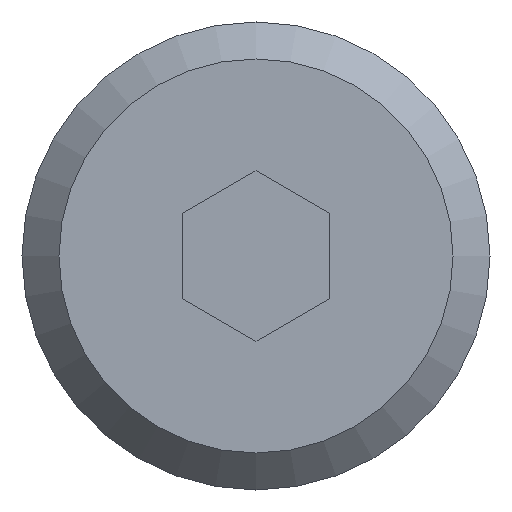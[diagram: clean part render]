
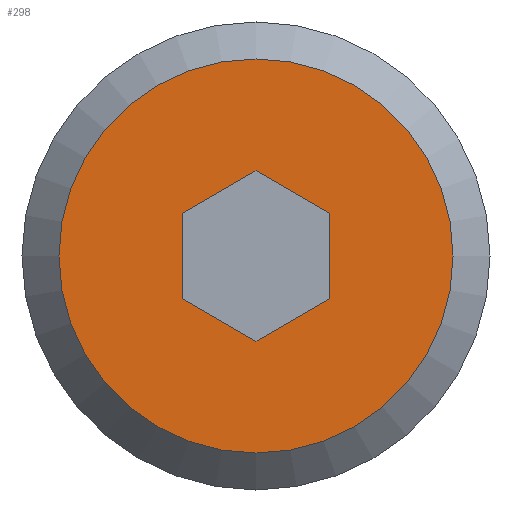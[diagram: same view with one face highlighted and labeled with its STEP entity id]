
A CAD part, left-side view. The second image highlights one B-rep face of the part: STEP entity #298.
In plain terms, the highlighted planar face has unit normal (-1, 0, 0).
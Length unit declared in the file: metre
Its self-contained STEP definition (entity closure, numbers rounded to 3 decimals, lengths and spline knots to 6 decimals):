
#15=CIRCLE('',#329,0.004);
#88=ORIENTED_EDGE('',*,*,#123,.F.);
#89=ORIENTED_EDGE('',*,*,#134,.F.);
#90=ORIENTED_EDGE('',*,*,#132,.F.);
#91=ORIENTED_EDGE('',*,*,#130,.F.);
#92=ORIENTED_EDGE('',*,*,#128,.F.);
#93=ORIENTED_EDGE('',*,*,#126,.F.);
#94=ORIENTED_EDGE('',*,*,#151,.T.);
#123=EDGE_CURVE('',#163,#164,#192,.T.);
#126=EDGE_CURVE('',#164,#165,#195,.T.);
#128=EDGE_CURVE('',#165,#166,#197,.T.);
#130=EDGE_CURVE('',#166,#167,#199,.T.);
#132=EDGE_CURVE('',#167,#168,#201,.T.);
#134=EDGE_CURVE('',#168,#163,#203,.T.);
#151=EDGE_CURVE('',#182,#182,#15,.T.);
#163=VERTEX_POINT('',#427);
#164=VERTEX_POINT('',#428);
#165=VERTEX_POINT('',#433);
#166=VERTEX_POINT('',#437);
#167=VERTEX_POINT('',#441);
#168=VERTEX_POINT('',#445);
#182=VERTEX_POINT('',#5761);
#192=LINE('',#426,#214);
#195=LINE('',#432,#217);
#197=LINE('',#436,#219);
#199=LINE('',#440,#221);
#201=LINE('',#444,#223);
#203=LINE('',#448,#225);
#214=VECTOR('',#353,1.);
#217=VECTOR('',#358,1.);
#219=VECTOR('',#362,1.);
#221=VECTOR('',#366,1.);
#223=VECTOR('',#370,1.);
#225=VECTOR('',#374,1.);
#241=EDGE_LOOP('',(#88,#89,#90,#91,#92,#93));
#242=EDGE_LOOP('',(#94));
#264=FACE_BOUND('',#241,.T.);
#265=FACE_BOUND('',#242,.T.);
#284=PLANE('',#328);
#298=ADVANCED_FACE('',(#264,#265),#284,.F.);
#328=AXIS2_PLACEMENT_3D('',#5759,#385,#386);
#329=AXIS2_PLACEMENT_3D('',#5760,#387,#388);
#353=DIRECTION('',(0.,0.,1.));
#358=DIRECTION('',(0.,0.866,0.5));
#362=DIRECTION('',(0.,0.866,-0.5));
#366=DIRECTION('',(0.,0.,-1.));
#370=DIRECTION('',(0.,-0.866,-0.5));
#374=DIRECTION('',(0.,-0.866,0.5));
#385=DIRECTION('',(1.,0.,0.));
#386=DIRECTION('',(0.,0.,1.));
#387=DIRECTION('',(-1.,0.,0.));
#388=DIRECTION('',(0.,0.,1.));
#426=CARTESIAN_POINT('',(-0.060427,0.016334,-0.053567));
#427=CARTESIAN_POINT('',(-0.060427,0.016334,-0.053567));
#428=CARTESIAN_POINT('',(-0.060427,0.016334,-0.051835));
#432=CARTESIAN_POINT('',(-0.060427,0.016334,-0.051835));
#433=CARTESIAN_POINT('',(-0.060427,0.017834,-0.050969));
#436=CARTESIAN_POINT('',(-0.060427,0.017834,-0.050969));
#437=CARTESIAN_POINT('',(-0.060427,0.019334,-0.051835));
#440=CARTESIAN_POINT('',(-0.060427,0.019334,-0.051835));
#441=CARTESIAN_POINT('',(-0.060427,0.019334,-0.053567));
#444=CARTESIAN_POINT('',(-0.060427,0.019334,-0.053567));
#445=CARTESIAN_POINT('',(-0.060427,0.017834,-0.054433));
#448=CARTESIAN_POINT('',(-0.060427,0.017834,-0.054433));
#5759=CARTESIAN_POINT('',(-0.060427,0.017834,-0.047951));
#5760=CARTESIAN_POINT('',(-0.060427,0.017834,-0.052701));
#5761=CARTESIAN_POINT('',(-0.060427,0.017834,-0.048701));
